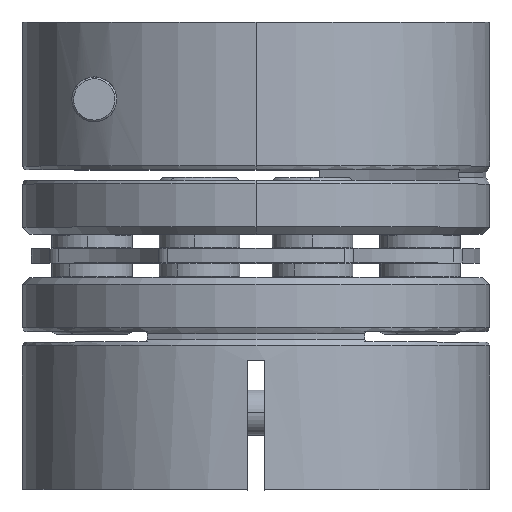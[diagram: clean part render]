
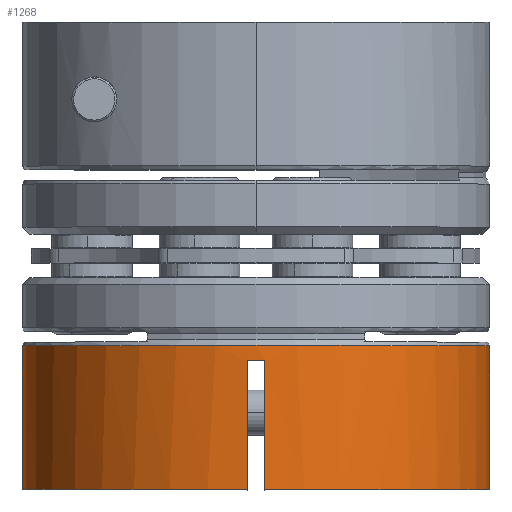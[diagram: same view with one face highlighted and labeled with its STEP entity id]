
A CAD part, top view. The second image highlights one B-rep face of the part: STEP entity #1268.
In plain terms, the highlighted cylindrical face has radius 13 mm (diameter 26 mm), a partial arc.
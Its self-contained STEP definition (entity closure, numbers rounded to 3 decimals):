
#161 = ORIENTED_EDGE ( 'NONE', *, *, #14794, .F. ) ;
#273 = EDGE_CURVE ( 'NONE', #18155, #12088, #13942, .T. ) ;
#909 = B_SPLINE_CURVE_WITH_KNOTS ( 'NONE', 3,
 ( #3964, #21663, #7539, #9311 ),
 .UNSPECIFIED., .F., .F.,
 ( 4, 4 ),
 ( 0., 0.001 ),
 .UNSPECIFIED. ) ;
#1268 = ADVANCED_FACE ( 'NONE', ( #20834 ), #10540, .T. ) ;
#1295 = CARTESIAN_POINT ( 'NONE',  ( 2.255, -26.289, 12.99 ) ) ;
#1629 = VERTEX_POINT ( 'NONE', #19715 ) ;
#1750 = EDGE_CURVE ( 'NONE', #6206, #1629, #19391, .T. ) ;
#1855 = AXIS2_PLACEMENT_3D ( 'NONE', #19986, #21870, #7600 ) ;
#3123 = CIRCLE ( 'NONE', #5544, 13. ) ;
#3298 = ORIENTED_EDGE ( 'NONE', *, *, #3409, .T. ) ;
#3409 = EDGE_CURVE ( 'NONE', #7859, #7141, #909, .T. ) ;
#3540 = CARTESIAN_POINT ( 'NONE',  ( 1.255, -19.154, 12.99 ) ) ;
#3600 = DIRECTION ( 'NONE',  ( 0., 1., 0. ) ) ;
#3964 = CARTESIAN_POINT ( 'NONE',  ( 1.255, -19.154, 12.99 ) ) ;
#4485 = DIRECTION ( 'NONE',  ( 0., -1., 0. ) ) ;
#5471 = EDGE_LOOP ( 'NONE', ( #13152, #15832, #6097, #161, #16773, #22840, #3298, #8199 ) ) ;
#5544 = AXIS2_PLACEMENT_3D ( 'NONE', #20945, #22725, #6530 ) ;
#6097 = ORIENTED_EDGE ( 'NONE', *, *, #18549, .F. ) ;
#6142 = CARTESIAN_POINT ( 'NONE',  ( -11.245, -18.289, 0. ) ) ;
#6206 = VERTEX_POINT ( 'NONE', #10552 ) ;
#6530 = DIRECTION ( 'NONE',  ( -1., 0., 0. ) ) ;
#7141 = VERTEX_POINT ( 'NONE', #21212 ) ;
#7539 = CARTESIAN_POINT ( 'NONE',  ( 1.922, -19.16, 13.003 ) ) ;
#7600 = DIRECTION ( 'NONE',  ( 1., 0., 0. ) ) ;
#7859 = VERTEX_POINT ( 'NONE', #3540 ) ;
#7956 = EDGE_CURVE ( 'NONE', #7859, #18155, #9284, .T. ) ;
#8199 = ORIENTED_EDGE ( 'NONE', *, *, #13556, .T. ) ;
#8784 = EDGE_CURVE ( 'NONE', #6206, #12489, #20639, .T. ) ;
#9284 = LINE ( 'NONE', #10414, #19271 ) ;
#9311 = CARTESIAN_POINT ( 'NONE',  ( 2.255, -19.154, 12.99 ) ) ;
#9366 = CARTESIAN_POINT ( 'NONE',  ( 1.755, -26.289, 0. ) ) ;
#9446 = DIRECTION ( 'NONE',  ( 1., 0., 0. ) ) ;
#10220 = LINE ( 'NONE', #22345, #22166 ) ;
#10414 = CARTESIAN_POINT ( 'NONE',  ( 1.255, -14.489, 12.99 ) ) ;
#10540 = CYLINDRICAL_SURFACE ( 'NONE', #20449, 13. ) ;
#10552 = CARTESIAN_POINT ( 'NONE',  ( 14.755, -26.289, 0. ) ) ;
#11339 = CARTESIAN_POINT ( 'NONE',  ( 14.755, -56.94, 0. ) ) ;
#11358 = CARTESIAN_POINT ( 'NONE',  ( 1.755, -56.94, 0. ) ) ;
#12088 = VERTEX_POINT ( 'NONE', #12480 ) ;
#12480 = CARTESIAN_POINT ( 'NONE',  ( -11.245, -26.289, 0. ) ) ;
#12489 = VERTEX_POINT ( 'NONE', #1295 ) ;
#13152 = ORIENTED_EDGE ( 'NONE', *, *, #8784, .F. ) ;
#13556 = EDGE_CURVE ( 'NONE', #7141, #12489, #10220, .T. ) ;
#13807 = VECTOR ( 'NONE', #3600, 1000. ) ;
#13942 = CIRCLE ( 'NONE', #16905, 13. ) ;
#14245 = CARTESIAN_POINT ( 'NONE',  ( -11.245, -56.94, 0. ) ) ;
#14705 = VECTOR ( 'NONE', #16791, 1000. ) ;
#14785 = DIRECTION ( 'NONE',  ( 0., 1., 0. ) ) ;
#14794 = EDGE_CURVE ( 'NONE', #12088, #18475, #15196, .T. ) ;
#15196 = LINE ( 'NONE', #14245, #13807 ) ;
#15642 = DIRECTION ( 'NONE',  ( 0., -1., 0. ) ) ;
#15832 = ORIENTED_EDGE ( 'NONE', *, *, #1750, .T. ) ;
#15946 = CARTESIAN_POINT ( 'NONE',  ( 1.255, -26.289, 12.99 ) ) ;
#16773 = ORIENTED_EDGE ( 'NONE', *, *, #273, .F. ) ;
#16791 = DIRECTION ( 'NONE',  ( 0., 1., 0. ) ) ;
#16808 = DIRECTION ( 'NONE',  ( -1., 0., 0. ) ) ;
#16905 = AXIS2_PLACEMENT_3D ( 'NONE', #9366, #21876, #9446 ) ;
#18155 = VERTEX_POINT ( 'NONE', #15946 ) ;
#18475 = VERTEX_POINT ( 'NONE', #6142 ) ;
#18549 = EDGE_CURVE ( 'NONE', #18475, #1629, #3123, .T. ) ;
#19271 = VECTOR ( 'NONE', #15642, 1000. ) ;
#19391 = LINE ( 'NONE', #11339, #14705 ) ;
#19715 = CARTESIAN_POINT ( 'NONE',  ( 14.755, -18.289, 0. ) ) ;
#19986 = CARTESIAN_POINT ( 'NONE',  ( 1.755, -26.289, 0. ) ) ;
#20449 = AXIS2_PLACEMENT_3D ( 'NONE', #11358, #14785, #16808 ) ;
#20639 = CIRCLE ( 'NONE', #1855, 13. ) ;
#20834 = FACE_OUTER_BOUND ( 'NONE', #5471, .T. ) ;
#20945 = CARTESIAN_POINT ( 'NONE',  ( 1.755, -18.289, 0. ) ) ;
#21212 = CARTESIAN_POINT ( 'NONE',  ( 2.255, -19.154, 12.99 ) ) ;
#21663 = CARTESIAN_POINT ( 'NONE',  ( 1.589, -19.16, 13.003 ) ) ;
#21870 = DIRECTION ( 'NONE',  ( 0., -1., 0. ) ) ;
#21876 = DIRECTION ( 'NONE',  ( 0., -1., 0. ) ) ;
#22166 = VECTOR ( 'NONE', #4485, 1000. ) ;
#22345 = CARTESIAN_POINT ( 'NONE',  ( 2.255, -14.489, 12.99 ) ) ;
#22725 = DIRECTION ( 'NONE',  ( 0., 1., 0. ) ) ;
#22840 = ORIENTED_EDGE ( 'NONE', *, *, #7956, .F. ) ;
